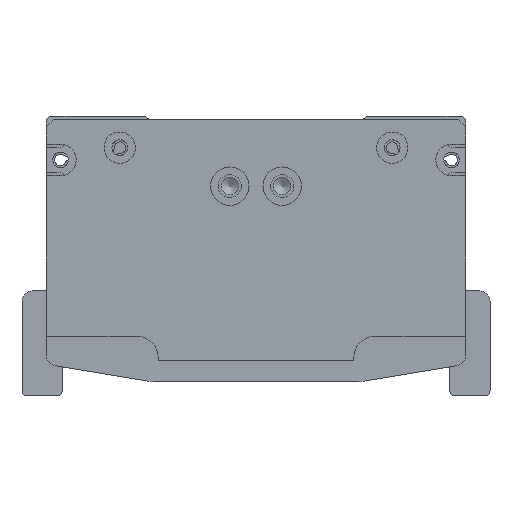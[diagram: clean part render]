
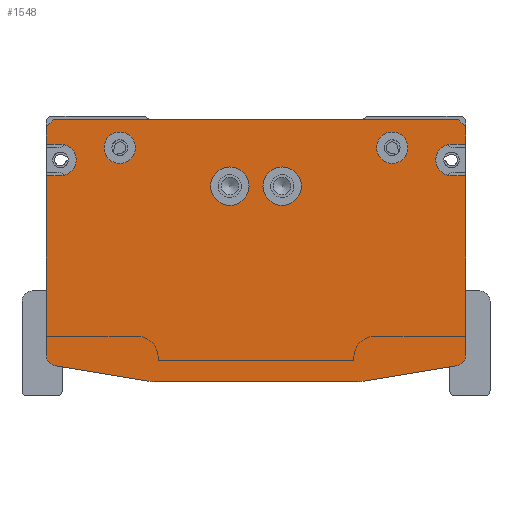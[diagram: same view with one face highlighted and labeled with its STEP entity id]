
A CAD part, front view. The second image highlights one B-rep face of the part: STEP entity #1548.
In plain terms, the highlighted planar face has unit normal (0, -1, 0).
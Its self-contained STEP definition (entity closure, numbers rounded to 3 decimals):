
#435=FACE_BOUND('',#3213,.T.);
#436=FACE_BOUND('',#3214,.T.);
#437=FACE_BOUND('',#3215,.T.);
#438=FACE_BOUND('',#3216,.T.);
#439=FACE_BOUND('',#3217,.T.);
#1018=PLANE('',#13987);
#1548=ADVANCED_FACE('',(#435,#436,#437,#438,#439),#1018,.F.);
#3213=EDGE_LOOP('',(#7617));
#3214=EDGE_LOOP('',(#7618));
#3215=EDGE_LOOP('',(#7619,#7620,#7621,#7622,#7623,#7624,#7625,#7626,#7627,
#7628,#7629,#7630,#7631,#7632,#7633,#7634,#7635,#7636,#7637,#7638));
#3216=EDGE_LOOP('',(#7639));
#3217=EDGE_LOOP('',(#7640));
#4039=LINE('',#19539,#5013);
#4043=LINE('',#19547,#5017);
#4176=LINE('',#20224,#5150);
#4207=LINE('',#20284,#5181);
#4211=LINE('',#20292,#5185);
#4385=LINE('',#21479,#5359);
#4387=LINE('',#21482,#5361);
#4391=LINE('',#21489,#5365);
#4394=LINE('',#21498,#5368);
#4407=LINE('',#21533,#5381);
#4412=LINE('',#21547,#5386);
#4416=LINE('',#21559,#5390);
#4438=LINE('',#21621,#5412);
#4441=LINE('',#21630,#5415);
#5013=VECTOR('',#15320,1.);
#5017=VECTOR('',#15324,1.);
#5150=VECTOR('',#15773,1.);
#5181=VECTOR('',#15818,1.);
#5185=VECTOR('',#15822,1.);
#5359=VECTOR('',#16630,1.);
#5361=VECTOR('',#16634,1.);
#5365=VECTOR('',#16640,1.);
#5368=VECTOR('',#16651,1.);
#5381=VECTOR('',#16684,1.);
#5386=VECTOR('',#16697,1.);
#5390=VECTOR('',#16709,1.);
#5412=VECTOR('',#16785,1.);
#5415=VECTOR('',#16796,1.);
#7617=ORIENTED_EDGE('',*,*,#11629,.T.);
#7618=ORIENTED_EDGE('',*,*,#11633,.T.);
#7619=ORIENTED_EDGE('',*,*,#11694,.T.);
#7620=ORIENTED_EDGE('',*,*,#11690,.F.);
#7621=ORIENTED_EDGE('',*,*,#11688,.F.);
#7622=ORIENTED_EDGE('',*,*,#11685,.F.);
#7623=ORIENTED_EDGE('',*,*,#11681,.T.);
#7624=ORIENTED_EDGE('',*,*,#11678,.T.);
#7625=ORIENTED_EDGE('',*,*,#11323,.F.);
#7626=ORIENTED_EDGE('',*,*,#11664,.T.);
#7627=ORIENTED_EDGE('',*,*,#11661,.T.);
#7628=ORIENTED_EDGE('',*,*,#11659,.F.);
#7629=ORIENTED_EDGE('',*,*,#11319,.F.);
#7630=ORIENTED_EDGE('',*,*,#11655,.T.);
#7631=ORIENTED_EDGE('',*,*,#11288,.F.);
#7632=ORIENTED_EDGE('',*,*,#11653,.T.);
#7633=ORIENTED_EDGE('',*,*,#11060,.F.);
#7634=ORIENTED_EDGE('',*,*,#11729,.T.);
#7635=ORIENTED_EDGE('',*,*,#11726,.T.);
#7636=ORIENTED_EDGE('',*,*,#11724,.F.);
#7637=ORIENTED_EDGE('',*,*,#11056,.F.);
#7638=ORIENTED_EDGE('',*,*,#11697,.T.);
#7639=ORIENTED_EDGE('',*,*,#11640,.F.);
#7640=ORIENTED_EDGE('',*,*,#11636,.F.);
#9699=VERTEX_POINT('',#19538);
#9700=VERTEX_POINT('',#19540);
#9703=VERTEX_POINT('',#19546);
#9704=VERTEX_POINT('',#19548);
#9835=VERTEX_POINT('',#20223);
#9836=VERTEX_POINT('',#20225);
#9857=VERTEX_POINT('',#20283);
#9858=VERTEX_POINT('',#20285);
#9861=VERTEX_POINT('',#20291);
#9862=VERTEX_POINT('',#20293);
#10077=VERTEX_POINT('',#21422);
#10081=VERTEX_POINT('',#21433);
#10084=VERTEX_POINT('',#21442);
#10087=VERTEX_POINT('',#21452);
#10095=VERTEX_POINT('',#21487);
#10097=VERTEX_POINT('',#21494);
#10108=VERTEX_POINT('',#21528);
#10110=VERTEX_POINT('',#21534);
#10113=VERTEX_POINT('',#21542);
#10115=VERTEX_POINT('',#21548);
#10116=VERTEX_POINT('',#21552);
#10119=VERTEX_POINT('',#21560);
#10131=VERTEX_POINT('',#21619);
#10133=VERTEX_POINT('',#21626);
#11056=EDGE_CURVE('',#9699,#9700,#4039,.T.);
#11060=EDGE_CURVE('',#9703,#9704,#4043,.T.);
#11288=EDGE_CURVE('',#9835,#9836,#4176,.T.);
#11319=EDGE_CURVE('',#9857,#9858,#4207,.T.);
#11323=EDGE_CURVE('',#9861,#9862,#4211,.T.);
#11629=EDGE_CURVE('',#10077,#10077,#12836,.T.);
#11633=EDGE_CURVE('',#10081,#10081,#12840,.T.);
#11636=EDGE_CURVE('',#10084,#10084,#12843,.T.);
#11640=EDGE_CURVE('',#10087,#10087,#12847,.T.);
#11653=EDGE_CURVE('',#9835,#9704,#4385,.T.);
#11655=EDGE_CURVE('',#9857,#9836,#4387,.T.);
#11659=EDGE_CURVE('',#9858,#10095,#4391,.T.);
#11661=EDGE_CURVE('',#10097,#10095,#12854,.T.);
#11664=EDGE_CURVE('',#9861,#10097,#4394,.T.);
#11678=EDGE_CURVE('',#10108,#9862,#12857,.T.);
#11681=EDGE_CURVE('',#10110,#10108,#4407,.T.);
#11685=EDGE_CURVE('',#10110,#10113,#12860,.T.);
#11688=EDGE_CURVE('',#10113,#10115,#4412,.T.);
#11690=EDGE_CURVE('',#10115,#10116,#12861,.T.);
#11694=EDGE_CURVE('',#10119,#10116,#4416,.T.);
#11697=EDGE_CURVE('',#9699,#10119,#12864,.T.);
#11724=EDGE_CURVE('',#9700,#10131,#4438,.T.);
#11726=EDGE_CURVE('',#10133,#10131,#12872,.T.);
#11729=EDGE_CURVE('',#9703,#10133,#4441,.T.);
#12836=CIRCLE('',#13888,5.5);
#12840=CIRCLE('',#13895,5.5);
#12843=CIRCLE('',#13901,4.5);
#12847=CIRCLE('',#13908,4.5);
#12854=CIRCLE('',#13926,4.5);
#12857=CIRCLE('',#13935,3.);
#12860=CIRCLE('',#13940,10.);
#12861=CIRCLE('',#13943,10.);
#12864=CIRCLE('',#13948,3.);
#12872=CIRCLE('',#13975,4.5);
#13888=AXIS2_PLACEMENT_3D('',#21421,#16555,#16556);
#13895=AXIS2_PLACEMENT_3D('',#21432,#16569,#16570);
#13901=AXIS2_PLACEMENT_3D('',#21441,#16581,#16582);
#13908=AXIS2_PLACEMENT_3D('',#21451,#16595,#16596);
#13926=AXIS2_PLACEMENT_3D('',#21493,#16645,#16646);
#13935=AXIS2_PLACEMENT_3D('',#21527,#16677,#16678);
#13940=AXIS2_PLACEMENT_3D('',#21541,#16691,#16692);
#13943=AXIS2_PLACEMENT_3D('',#21551,#16701,#16702);
#13948=AXIS2_PLACEMENT_3D('',#21564,#16715,#16716);
#13975=AXIS2_PLACEMENT_3D('',#21625,#16790,#16791);
#13987=AXIS2_PLACEMENT_3D('',#21647,#16821,#16822);
#15320=DIRECTION('',(0.,0.,1.));
#15324=DIRECTION('',(0.,0.,1.));
#15773=DIRECTION('',(1.,0.,0.));
#15818=DIRECTION('',(0.,0.,-1.));
#15822=DIRECTION('',(0.,0.,-1.));
#16555=DIRECTION('',(0.,1.,0.));
#16556=DIRECTION('',(1.,0.,0.));
#16569=DIRECTION('',(0.,1.,0.));
#16570=DIRECTION('',(1.,0.,0.));
#16581=DIRECTION('',(0.,-1.,0.));
#16582=DIRECTION('',(1.,0.,0.));
#16595=DIRECTION('',(0.,-1.,0.));
#16596=DIRECTION('',(1.,0.,0.));
#16630=DIRECTION('',(-0.707,0.,-0.707));
#16634=DIRECTION('',(-0.707,0.,0.707));
#16640=DIRECTION('',(-1.,0.,0.));
#16645=DIRECTION('',(0.,1.,0.));
#16646=DIRECTION('',(0.,0.,-1.));
#16651=DIRECTION('',(-1.,0.,0.));
#16677=DIRECTION('',(0.,-1.,0.));
#16678=DIRECTION('',(0.164,0.,-0.986));
#16684=DIRECTION('',(0.986,0.,0.164));
#16691=DIRECTION('',(0.,1.,0.));
#16692=DIRECTION('',(0.164,0.,-0.986));
#16697=DIRECTION('',(-1.,0.,0.));
#16701=DIRECTION('',(0.,1.,0.));
#16702=DIRECTION('',(0.,0.,-1.));
#16709=DIRECTION('',(0.986,0.,-0.164));
#16715=DIRECTION('',(0.,-1.,0.));
#16716=DIRECTION('',(-1.,0.,0.));
#16785=DIRECTION('',(1.,0.,0.));
#16790=DIRECTION('',(0.,1.,0.));
#16791=DIRECTION('',(0.,0.,1.));
#16796=DIRECTION('',(1.,0.,0.));
#16821=DIRECTION('',(0.,1.,0.));
#16822=DIRECTION('',(1.,0.,0.));
#19538=CARTESIAN_POINT('',(-60.,-12.,-69.459));
#19539=CARTESIAN_POINT('',(-60.,-12.,-69.459));
#19540=CARTESIAN_POINT('',(-60.,-12.,-18.));
#19546=CARTESIAN_POINT('',(-60.,-12.,-9.));
#19547=CARTESIAN_POINT('',(-60.,-12.,-9.));
#19548=CARTESIAN_POINT('',(-60.,-12.,-4.));
#20223=CARTESIAN_POINT('',(-58.,-12.,-2.));
#20224=CARTESIAN_POINT('',(-58.,-12.,-2.));
#20225=CARTESIAN_POINT('',(58.,-12.,-2.));
#20283=CARTESIAN_POINT('',(60.,-12.,-4.));
#20284=CARTESIAN_POINT('',(60.,-12.,-4.));
#20285=CARTESIAN_POINT('',(60.,-12.,-9.));
#20291=CARTESIAN_POINT('',(60.,-12.,-18.));
#20292=CARTESIAN_POINT('',(60.,-12.,-18.));
#20293=CARTESIAN_POINT('',(60.,-12.,-69.459));
#21421=CARTESIAN_POINT('',(7.5,-12.,-21.));
#21422=CARTESIAN_POINT('',(13.,-12.,-21.));
#21432=CARTESIAN_POINT('',(-7.5,-12.,-21.));
#21433=CARTESIAN_POINT('',(-2.,-12.,-21.));
#21441=CARTESIAN_POINT('',(-39.,-12.,-10.));
#21442=CARTESIAN_POINT('',(-34.5,-12.,-10.));
#21451=CARTESIAN_POINT('',(39.,-12.,-10.));
#21452=CARTESIAN_POINT('',(43.5,-12.,-10.));
#21479=CARTESIAN_POINT('',(-58.,-12.,-2.));
#21482=CARTESIAN_POINT('',(60.,-12.,-4.));
#21487=CARTESIAN_POINT('',(56.,-12.,-9.));
#21489=CARTESIAN_POINT('',(60.,-12.,-9.));
#21493=CARTESIAN_POINT('',(56.,-12.,-13.5));
#21494=CARTESIAN_POINT('',(56.,-12.,-18.));
#21498=CARTESIAN_POINT('',(60.,-12.,-18.));
#21527=CARTESIAN_POINT('',(57.,-12.,-69.459));
#21528=CARTESIAN_POINT('',(57.493,-12.,-72.418));
#21533=CARTESIAN_POINT('',(30.816,-12.,-76.864));
#21534=CARTESIAN_POINT('',(30.816,-12.,-76.864));
#21541=CARTESIAN_POINT('',(29.172,-12.,-67.));
#21542=CARTESIAN_POINT('',(29.172,-12.,-77.));
#21547=CARTESIAN_POINT('',(29.172,-12.,-77.));
#21548=CARTESIAN_POINT('',(-29.172,-12.,-77.));
#21551=CARTESIAN_POINT('',(-29.172,-12.,-67.));
#21552=CARTESIAN_POINT('',(-30.816,-12.,-76.864));
#21559=CARTESIAN_POINT('',(-57.493,-12.,-72.418));
#21560=CARTESIAN_POINT('',(-57.493,-12.,-72.418));
#21564=CARTESIAN_POINT('',(-57.,-12.,-69.459));
#21619=CARTESIAN_POINT('',(-56.,-12.,-18.));
#21621=CARTESIAN_POINT('',(-60.,-12.,-18.));
#21625=CARTESIAN_POINT('',(-56.,-12.,-13.5));
#21626=CARTESIAN_POINT('',(-56.,-12.,-9.));
#21630=CARTESIAN_POINT('',(-60.,-12.,-9.));
#21647=CARTESIAN_POINT('',(0.,-12.,-2.));
